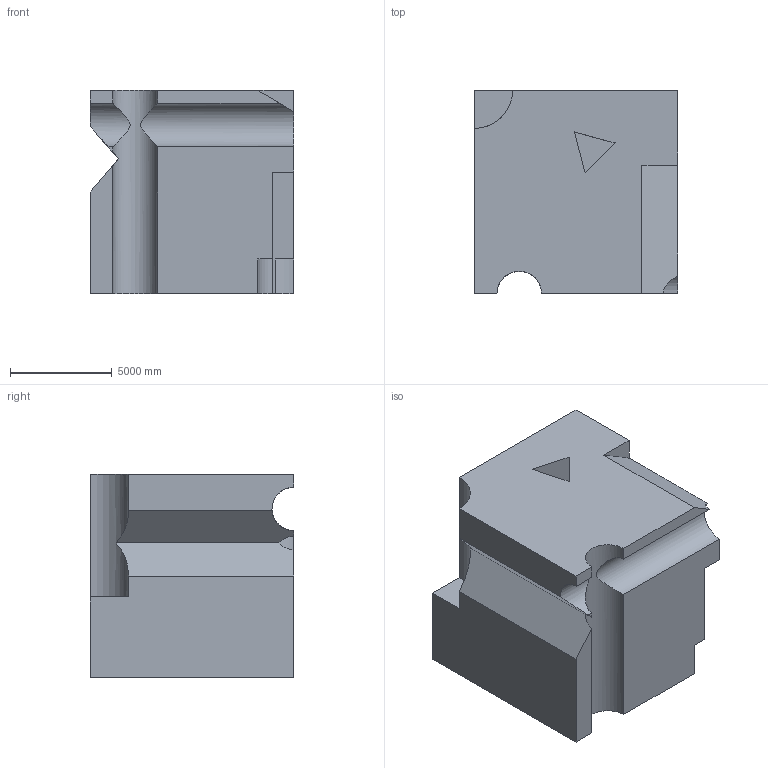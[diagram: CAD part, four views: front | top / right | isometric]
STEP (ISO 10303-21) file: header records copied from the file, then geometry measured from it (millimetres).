
FILE_DESCRIPTION (( 'STEP AP203' ), '1' );
FILE_NAME ('885.STEP', '2022-07-29T13:59:54', ( 'user' ), ( '' ), 'SwSTEP 2.0', 'SolidWorks 2021', '' );
FILE_SCHEMA (( 'CONFIG_CONTROL_DESIGN' ));
Length unit declared in the file: centimetre
Products named in the file (1): 885
Bounding box: 10000 x 10000 x 10000 mm (x, y, z)
Volume: 905187886780.2 mm3; surface area: 634353312.1 mm2
Topology: 1 solids, 1 shells, 36 faces, 96 edges, 64 vertices
Faces by surface type: plane 30, cylinder 6
Entity records: 1581 total; most frequent: CARTESIAN_POINT 613, ORIENTED_EDGE 192, DIRECTION 172, EDGE_CURVE 96, VECTOR 78, LINE 78, VERTEX_POINT 64, AXIS2_PLACEMENT_3D 47
